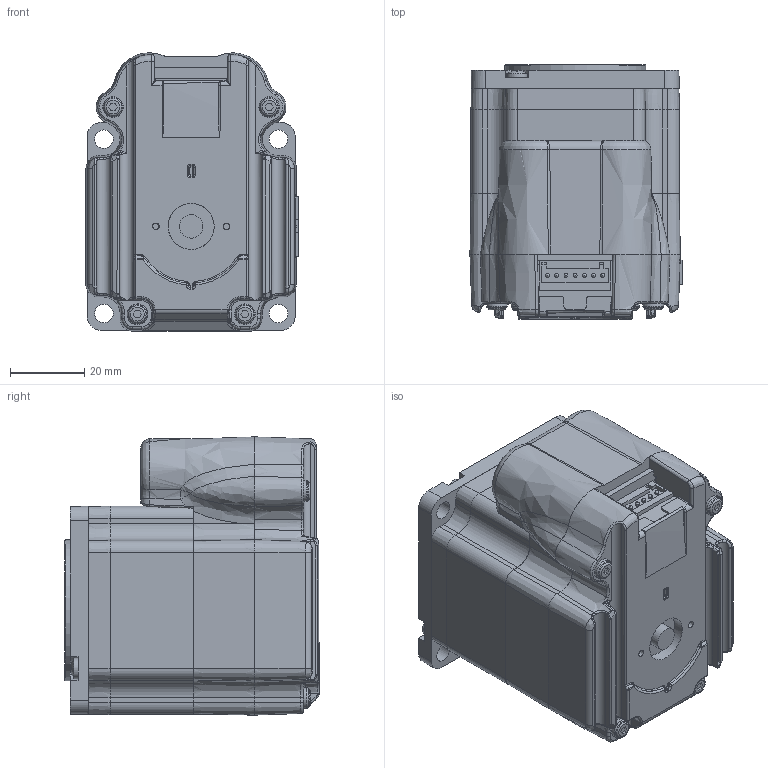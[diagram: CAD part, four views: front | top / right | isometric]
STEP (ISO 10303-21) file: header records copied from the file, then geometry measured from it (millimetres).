
FILE_DESCRIPTION(('MDrive23Plus, Linear, P1 (IO PWR, P) and P2 (RD or RL 10-Pin) Single-Stack'),'1');
FILE_NAME('MDrive23Plus, Linear, P1 (IO PWR, P) and P2 (RD or RL 10-Pin) Single-Stack.stp','2010-12-17T14:14:44',('KeyCreator USER'),('Kubotek USA, Inc.'),'Spatial Interop R20 SP1','Kubotek KeyCreator V9.0.3 (16864)','KC');
FILE_SCHEMA(('automotive_design'));
Length unit declared in the file: inch
Products named in the file (1): Unnamed[1]
Bounding box: 57.34 x 68.84 x 75.2 mm (x, y, z)
Volume: 219607.2 mm3; surface area: 32572.9 mm2
Topology: 1 solids, 1 shells, 816 faces, 2092 edges, 1302 vertices
Faces by surface type: plane 371, bspline 230, cylinder 126, torus 38, cone 26, sphere 25
Full cylindrical faces by diameter (mm): 1.041 x7, 3.175 x2, 5 x4, 5.563 x4, 5.588 x4, 6.35 x3, 8.001 x1, 10.16 x1, 12.446 x1, 38.1 x1
Entity records: 66119 total; most frequent: CARTESIAN_POINT 23394, PRESENTATION_STYLE_ASSIGNMENT 4866, COLOUR_RGB 4866, STYLED_ITEM 4049, ORIENTED_EDGE 3998, CURVE_STYLE 2816, DRAUGHTING_PRE_DEFINED_CURVE_FONT 2816, DIRECTION 2407
